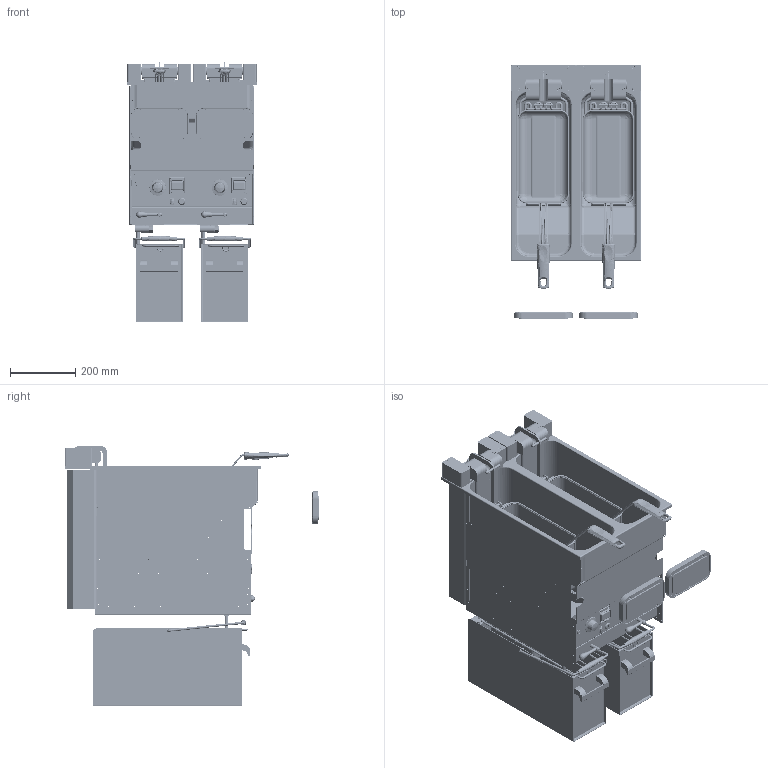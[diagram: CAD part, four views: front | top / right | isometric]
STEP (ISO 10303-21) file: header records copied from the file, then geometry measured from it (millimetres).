
FILE_DESCRIPTION(/* description */ (''),/* implementation_level */ '2;1');
FILE_NAME(/* name */ 'CORE SMART 2200 E',/* time_stamp */ '2025-10-22T13:26:54+02:00',/* author */ (''),/* organization */ (''),/* preprocessor_version */ 'ST-DEVELOPER v19.2',/* originating_system */ 'Rhino 8.23',/* authorisation */ '');
FILE_SCHEMA (('CONFIG_CONTROL_DESIGN'));
Products named in the file (1): Document
Bounding box: 398 x 778.5 x 795.9 mm (x, y, z)
Volume: 6309664.6 mm3; surface area: 8016228.8 mm2
Topology: 162 solids, 210 shells, 9540 faces, 24428 edges, 15357 vertices
Faces by surface type: plane 3364, cylinder 3346, bspline 2830
Full cylindrical faces by diameter (mm): 27 x2
Entity records: 502169 total; most frequent: CARTESIAN_POINT 306257, ORIENTED_EDGE 48300, EDGE_CURVE 24348, DIRECTION 23228, VERTEX_POINT 15357, AXIS2_PLACEMENT_3D 14969, B_SPLINE_CURVE_WITH_KNOTS 14948, EDGE_LOOP 10423
